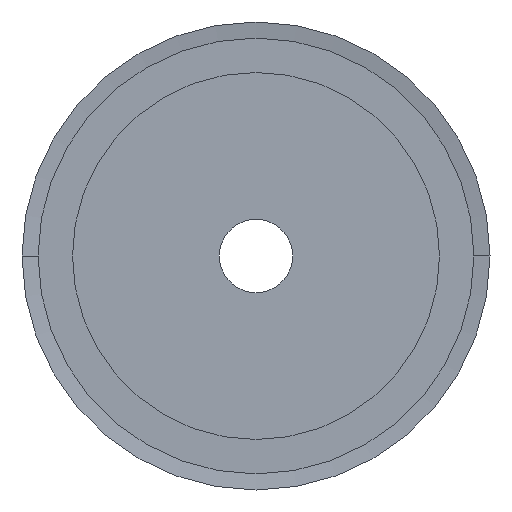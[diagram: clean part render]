
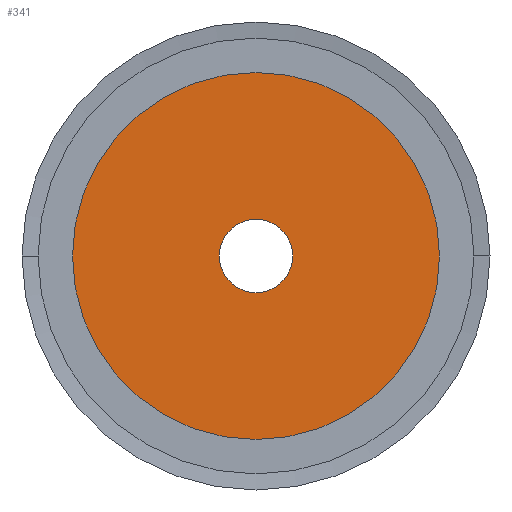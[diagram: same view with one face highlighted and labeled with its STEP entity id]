
A CAD part, left-side view. The second image highlights one B-rep face of the part: STEP entity #341.
In plain terms, the highlighted planar face has unit normal (-1, 0, 0).
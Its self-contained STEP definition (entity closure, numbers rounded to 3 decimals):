
#341 = ADVANCED_FACE( '', ( #881, #882 ), #883, .T. );
#881 = FACE_BOUND( '', #1422, .T. );
#882 = FACE_OUTER_BOUND( '', #1423, .T. );
#883 = PLANE( '', #1424 );
#1422 = EDGE_LOOP( '', ( #3763, #3764 ) );
#1423 = EDGE_LOOP( '', ( #3765, #3766 ) );
#1424 = AXIS2_PLACEMENT_3D( '', #3767, #3768, #3769 );
#3763 = ORIENTED_EDGE( '', *, *, #3809, .T. );
#3764 = ORIENTED_EDGE( '', *, *, #3805, .T. );
#3765 = ORIENTED_EDGE( '', *, *, #3773, .T. );
#3766 = ORIENTED_EDGE( '', *, *, #4541, .T. );
#3767 = CARTESIAN_POINT( '', ( 0., 10., 0. ) );
#3768 = DIRECTION( '', ( -1., 0., 0. ) );
#3769 = DIRECTION( '', ( 0., 1., 0. ) );
#3773 = EDGE_CURVE( '', #4543, #4547, #4549, .T. );
#3805 = EDGE_CURVE( '', #4607, #4604, #4608, .T. );
#3809 = EDGE_CURVE( '', #4604, #4607, #4613, .T. );
#4541 = EDGE_CURVE( '', #4547, #4543, #5825, .T. );
#4543 = VERTEX_POINT( '', #5827 );
#4547 = VERTEX_POINT( '', #5832 );
#4549 = CIRCLE( '', #5835, 20. );
#4604 = VERTEX_POINT( '', #5906 );
#4607 = VERTEX_POINT( '', #5910 );
#4608 = CIRCLE( '', #5911, 4. );
#4613 = CIRCLE( '', #5917, 4. );
#5825 = CIRCLE( '', #7549, 20. );
#5827 = CARTESIAN_POINT( '', ( 0., 20., 0. ) );
#5832 = CARTESIAN_POINT( '', ( 0., -20., 0. ) );
#5835 = AXIS2_PLACEMENT_3D( '', #7555, #7556, #7557 );
#5906 = CARTESIAN_POINT( '', ( 0., 4., 0. ) );
#5910 = CARTESIAN_POINT( '', ( 0., -4., 0. ) );
#5911 = AXIS2_PLACEMENT_3D( '', #7617, #7618, #7619 );
#5917 = AXIS2_PLACEMENT_3D( '', #7627, #7628, #7629 );
#7549 = AXIS2_PLACEMENT_3D( '', #8983, #8984, #8985 );
#7555 = CARTESIAN_POINT( '', ( 0., 0., 0. ) );
#7556 = DIRECTION( '', ( -1., 0., 0. ) );
#7557 = DIRECTION( '', ( 0., 1., 0. ) );
#7617 = CARTESIAN_POINT( '', ( 0., 0., 0. ) );
#7618 = DIRECTION( '', ( 1., 0., 0. ) );
#7619 = DIRECTION( '', ( 0., 1., 0. ) );
#7627 = CARTESIAN_POINT( '', ( 0., 0., 0. ) );
#7628 = DIRECTION( '', ( 1., 0., 0. ) );
#7629 = DIRECTION( '', ( 0., 1., 0. ) );
#8983 = CARTESIAN_POINT( '', ( 0., 0., 0. ) );
#8984 = DIRECTION( '', ( -1., 0., 0. ) );
#8985 = DIRECTION( '', ( 0., 1., 0. ) );
